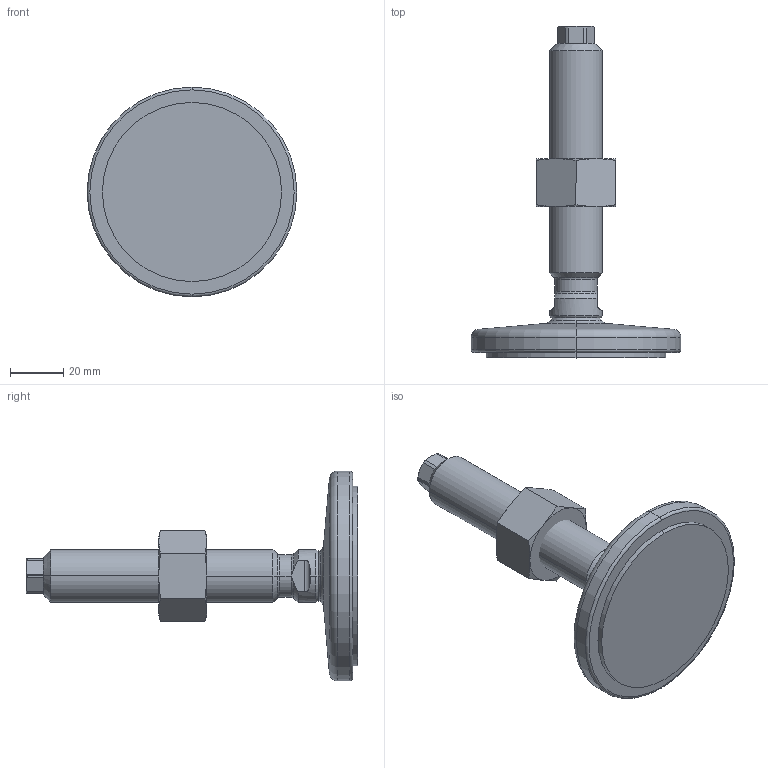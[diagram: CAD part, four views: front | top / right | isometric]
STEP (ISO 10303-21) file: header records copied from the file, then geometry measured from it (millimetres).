
FILE_DESCRIPTION (( 'STEP AP214' ), '1' );
FILE_NAME ('21-80-M20-100-D1-VK.step', '2020-10-02T17:36:30', ( '' ), ( '' ), 'SwSTEP 2.0', 'SolidWorks 2019', '' );
FILE_SCHEMA (( 'AUTOMOTIVE_DESIGN' ));
Length unit declared in the file: millimetre
Products named in the file (4): WB21_Fußteller 21^WB21_V_D1-080-R12-B9 (M20); 21-80-M20-100-D1-VK; WB21_Spindel_V^WB21_V_M20-100; WB4032^WB21_V_M20
Assembly tree (3 placements, depth 2):
  21-80-M20-100-D1-VK
    WB21_Fußteller 21^WB21_V_D1-080-R12-B9 (M20)
    WB21_Spindel_V^WB21_V_M20-100
    WB4032^WB21_V_M20
Bounding box: 79 x 125.02 x 79 mm (x, y, z)
Volume: 96351.2 mm3; surface area: 23543.9 mm2
Topology: 3 solids, 3 shells, 98 faces, 219 edges, 129 vertices
Faces by surface type: cone 29, plane 28, cylinder 27, torus 10, sphere 4
Entity records: 3117 total; most frequent: CARTESIAN_POINT 724, DIRECTION 476, ORIENTED_EDGE 438, EDGE_CURVE 219, AXIS2_PLACEMENT_3D 205, VERTEX_POINT 129, EDGE_LOOP 102, CIRCLE 101
